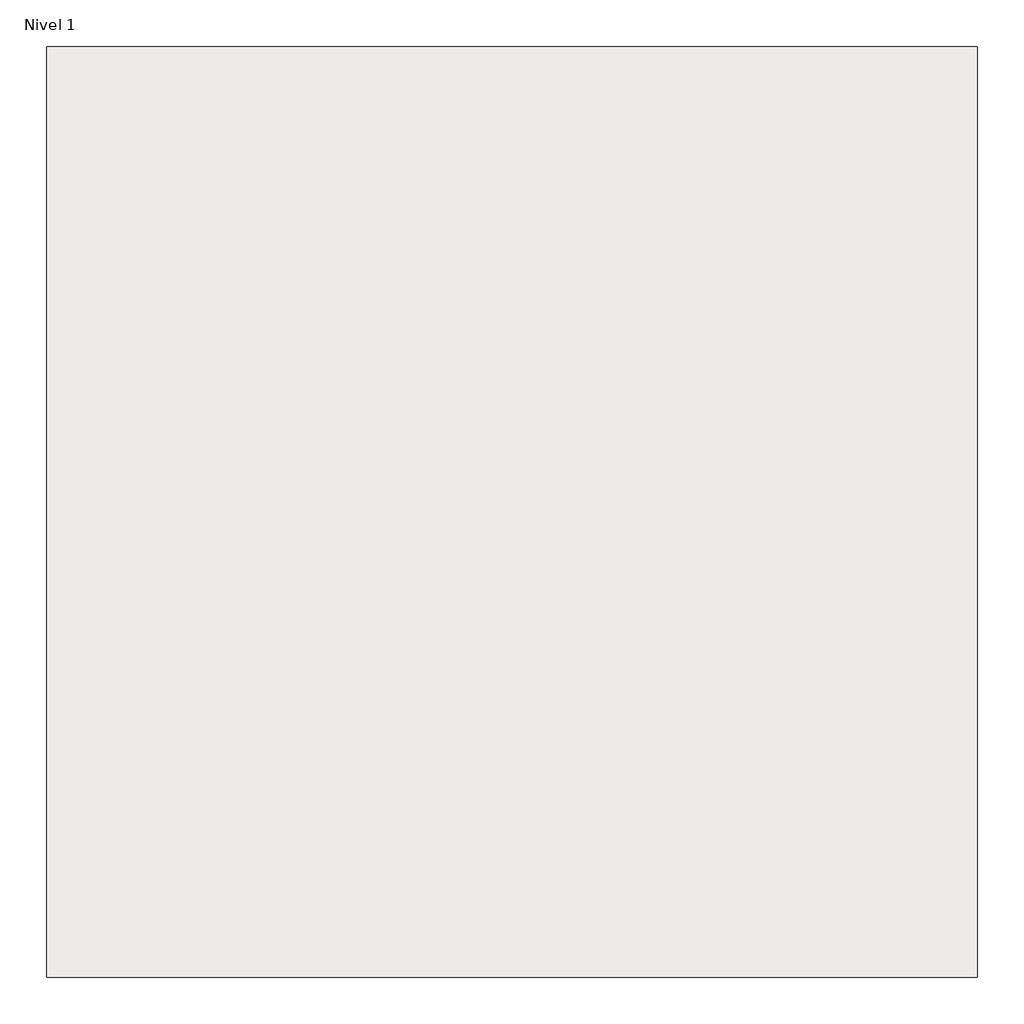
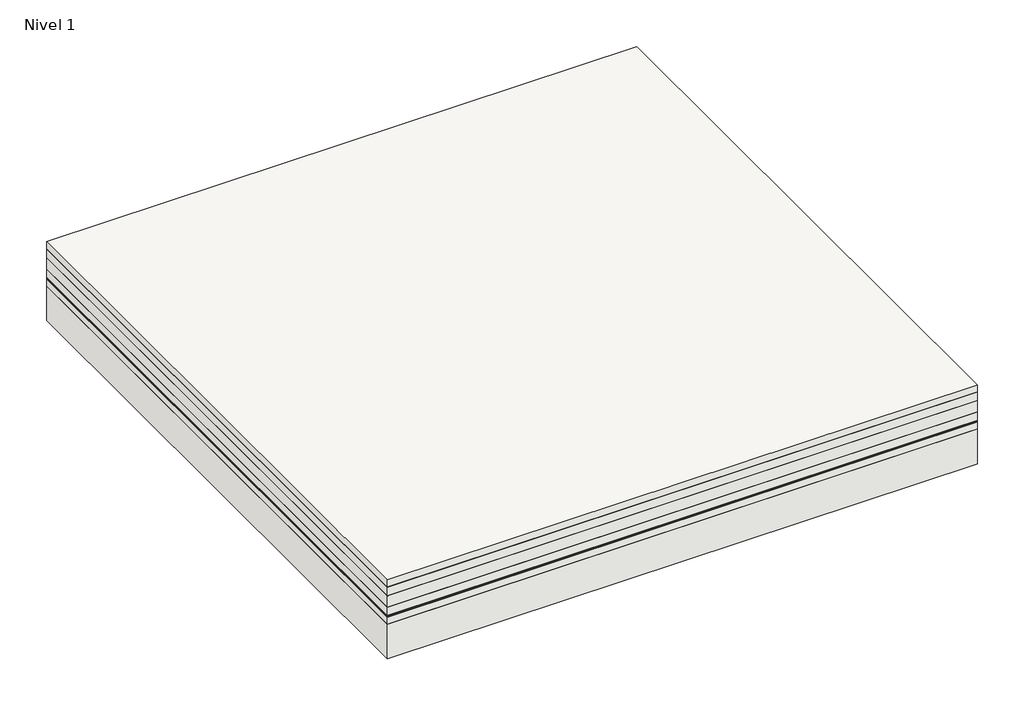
# One storey: 1 roof.
"""IFC4 building model written with IfcOpenShell, lengths in millimetres."""

from ifc_helpers import new_model, si_unit, frame, origin, origin_with_axes, place, context, project, spatial, polyline, outline, extrude, element, save

model = new_model("IFC4")

# Units and contexts
model_context = context("Model", 3, world=origin())
ifc_project = project(units=[si_unit("LENGTHUNIT", "METRE", prefix="MILLI")], contexts=[model_context])

# Site, building, storey
site = spatial("IfcSite", under=ifc_project)
building = spatial("IfcBuilding", under=site)
storey = spatial("IfcBuildingStorey", under=building, Name="Nivel 1", Elevation=0.0)

# Roof
placement = place(None, origin())
element("IfcRoof", 1, ObjectType="CubiertaSostenible-Ajardinada_IntensivaProjar750_BIAJ7_INT_PLUS_750", at=placement, inside=storey, context=model_context, shape_type="SweptSolid", body=[
    extrude(outline(polyline([(-2544.9527165, -3086.8428917), (-6544.9527165, -3086.8428917), (-6544.9527165, 913.1571083), (-2544.9527165, 913.1571083), (-2544.9527165, -3086.8428917)])), frame((0.0, 0.0, 516.0), z_axis=(0.0, 0.0, 1.0), x_axis=(1.0, 0.0, 0.0)), (0.0, 0.0, 1.0), 50.0),
    extrude(outline(polyline([(-2544.9527165, -3086.8428917), (-6544.9527165, -3086.8428917), (-6544.9527165, 913.1571083), (-2544.9527165, 913.1571083), (-2544.9527165, -3086.8428917)])), frame((0.0, 0.0, 514.0), z_axis=(0.0, 0.0, 1.0), x_axis=(1.0, 0.0, 0.0)), (0.0, 0.0, 1.0), 2.0),
    extrude(outline(polyline([(-2544.9527165, -3086.8428917), (-6544.9527165, -3086.8428917), (-6544.9527165, 913.1571083), (-2544.9527165, 913.1571083), (-2544.9527165, -3086.8428917)])), frame((0.0, 0.0, 454.0), z_axis=(0.0, 0.0, 1.0), x_axis=(1.0, 0.0, 0.0)), (0.0, 0.0, 1.0), 60.0),
    extrude(outline(polyline([(-2544.9527165, -3086.8428917), (-6544.9527165, -3086.8428917), (-6544.9527165, 913.1571083), (-2544.9527165, 913.1571083), (-2544.9527165, -3086.8428917)])), frame((0.0, 0.0, 452.0), z_axis=(0.0, 0.0, 1.0), x_axis=(1.0, 0.0, 0.0)), (0.0, 0.0, 1.0), 2.0),
    extrude(outline(polyline([(-2544.9527165, -3086.8428917), (-6544.9527165, -3086.8428917), (-6544.9527165, 913.1571083), (-2544.9527165, 913.1571083), (-2544.9527165, -3086.8428917)])), frame((0.0, 0.0, 372.0), z_axis=(0.0, 0.0, 1.0), x_axis=(1.0, 0.0, 0.0)), (0.0, 0.0, 1.0), 80.0),
    extrude(outline(polyline([(-2544.9527165, -3086.8428917), (-6544.9527165, -3086.8428917), (-6544.9527165, 913.1571083), (-2544.9527165, 913.1571083), (-2544.9527165, -3086.8428917)])), frame((0.0, 0.0, 312.0), z_axis=(0.0, 0.0, 1.0), x_axis=(1.0, 0.0, 0.0)), (0.0, 0.0, 1.0), 60.0),
    extrude(outline(polyline([(-2544.9527165, -3086.8428917), (-6544.9527165, -3086.8428917), (-6544.9527165, 913.1571083), (-2544.9527165, 913.1571083), (-2544.9527165, -3086.8428917)])), frame((0.0, 0.0, 310.0), z_axis=(0.0, 0.0, 1.0), x_axis=(1.0, 0.0, 0.0)), (0.0, 0.0, 1.0), 2.0),
    extrude(outline(polyline([(-2544.9527165, -3086.8428917), (-6544.9527165, -3086.8428917), (-6544.9527165, 913.1571083), (-2544.9527165, 913.1571083), (-2544.9527165, -3086.8428917)])), frame((0.0, 0.0, 308.0), z_axis=(0.0, 0.0, 1.0), x_axis=(1.0, 0.0, 0.0)), (0.0, 0.0, 1.0), 2.0),
    extrude(outline(polyline([(-2544.9527165, -3086.8428917), (-6544.9527165, -3086.8428917), (-6544.9527165, 913.1571083), (-2544.9527165, 913.1571083), (-2544.9527165, -3086.8428917)])), frame((0.0, 0.0, 306.0), z_axis=(0.0, 0.0, 1.0), x_axis=(1.0, 0.0, 0.0)), (0.0, 0.0, 1.0), 2.0),
    extrude(outline(polyline([(-2544.9527165, -3086.8428917), (-6544.9527165, -3086.8428917), (-6544.9527165, 913.1571083), (-2544.9527165, 913.1571083), (-2544.9527165, -3086.8428917)])), frame((0.0, 0.0, 304.0), z_axis=(0.0, 0.0, 1.0), x_axis=(1.0, 0.0, 0.0)), (0.0, 0.0, 1.0), 2.0),
    extrude(outline(polyline([(-2544.9527165, -3086.8428917), (-6544.9527165, -3086.8428917), (-6544.9527165, 913.1571083), (-2544.9527165, 913.1571083), (-2544.9527165, -3086.8428917)])), frame((0.0, 0.0, 302.0), z_axis=(0.0, 0.0, 1.0), x_axis=(1.0, 0.0, 0.0)), (0.0, 0.0, 1.0), 2.0),
    extrude(outline(polyline([(-2544.9527165, -3086.8428917), (-6544.9527165, -3086.8428917), (-6544.9527165, 913.1571083), (-2544.9527165, 913.1571083), (-2544.9527165, -3086.8428917)])), frame((0.0, 0.0, 300.0), z_axis=(0.0, 0.0, 1.0), x_axis=(1.0, 0.0, 0.0)), (0.0, 0.0, 1.0), 2.0),
    extrude(outline(polyline([(-2544.9527165, -3086.8428917), (-6544.9527165, -3086.8428917), (-6544.9527165, 913.1571083), (-2544.9527165, 913.1571083), (-2544.9527165, -3086.8428917)])), frame((0.0, 0.0, 250.0), z_axis=(0.0, 0.0, 1.0), x_axis=(1.0, 0.0, 0.0)), (0.0, 0.0, 1.0), 50.0),
    extrude(outline(polyline([(-2544.9527165, -3086.8428917), (-6544.9527165, -3086.8428917), (-6544.9527165, 913.1571083), (-2544.9527165, 913.1571083), (-2544.9527165, -3086.8428917)])), origin_with_axes(), (0.0, 0.0, 1.0), 250.0),
])

save(model, "model.ifc")
